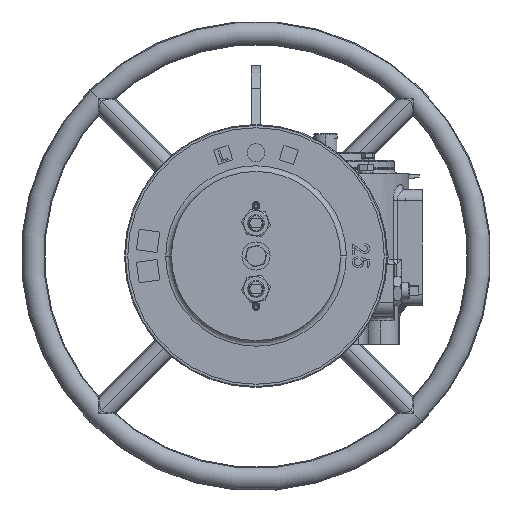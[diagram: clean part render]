
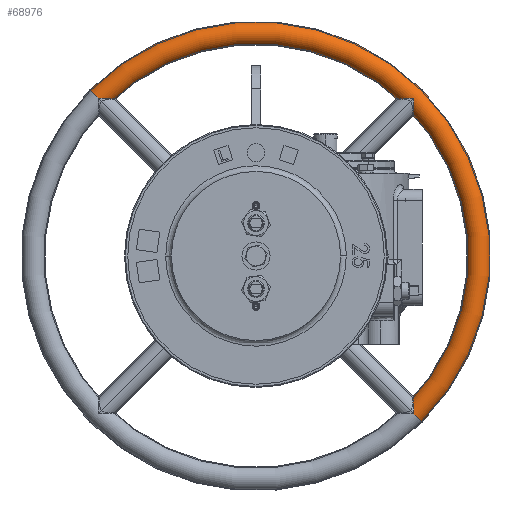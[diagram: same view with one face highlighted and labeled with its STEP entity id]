
A CAD part, left-side view. The second image highlights one B-rep face of the part: STEP entity #68976.
In plain terms, the highlighted toroidal (fillet/blend) face has major radius 237.5 mm and minor radius 12.5 mm.
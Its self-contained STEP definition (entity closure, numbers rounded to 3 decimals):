
#2143 = CARTESIAN_POINT ( 'NONE',  ( 959.677, 203.233, 169.938 ) ) ;
#4791 = CIRCLE ( 'NONE', #69454, 12.5 ) ;
#6302 = AXIS2_PLACEMENT_3D ( 'NONE', #62752, #37574, #63192 ) ;
#8318 = EDGE_LOOP ( 'NONE', ( #60828, #68478, #42470, #36343 ) ) ;
#8537 = EDGE_CURVE ( 'NONE', #71409, #87406, #4791, .T. ) ;
#8825 = FACE_OUTER_BOUND ( 'NONE', #8318, .T. ) ;
#9270 = AXIS2_PLACEMENT_3D ( 'NONE', #29167, #62270, #28280 ) ;
#10459 = CIRCLE ( 'NONE', #6302, 250. ) ;
#11813 = AXIS2_PLACEMENT_3D ( 'NONE', #2143, #55538, #75474 ) ;
#22041 = CARTESIAN_POINT ( 'NONE',  ( 959.677, -141.481, -174.777 ) ) ;
#25557 = DIRECTION ( 'NONE',  ( 0., 0., 1. ) ) ;
#28280 = DIRECTION ( 'NONE',  ( 0., 0.707, 0.707 ) ) ;
#29167 = CARTESIAN_POINT ( 'NONE',  ( 959.677, 35.296, 2. ) ) ;
#30303 = VERTEX_POINT ( 'NONE', #66912 ) ;
#33253 = VERTEX_POINT ( 'NONE', #55645 ) ;
#33456 = EDGE_CURVE ( 'NONE', #33253, #30303, #58324, .T. ) ;
#36343 = ORIENTED_EDGE ( 'NONE', *, *, #83834, .F. ) ;
#37574 = DIRECTION ( 'NONE',  ( -1., 0., 0. ) ) ;
#42470 = ORIENTED_EDGE ( 'NONE', *, *, #33456, .T. ) ;
#45003 = CARTESIAN_POINT ( 'NONE',  ( 959.677, 35.296, 2. ) ) ;
#46245 = CIRCLE ( 'NONE', #78661, 225. ) ;
#55538 = DIRECTION ( 'NONE',  ( 0., -0.707, 0.707 ) ) ;
#55645 = CARTESIAN_POINT ( 'NONE',  ( 959.677, 212.072, 178.777 ) ) ;
#57350 = CARTESIAN_POINT ( 'NONE',  ( 959.677, -123.803, -157.099 ) ) ;
#58324 = CIRCLE ( 'NONE', #11813, 12.5 ) ;
#60828 = ORIENTED_EDGE ( 'NONE', *, *, #8537, .F. ) ;
#62270 = DIRECTION ( 'NONE',  ( -1., 0., 0. ) ) ;
#62752 = CARTESIAN_POINT ( 'NONE',  ( 959.677, 35.296, 2. ) ) ;
#63192 = DIRECTION ( 'NONE',  ( 0., 0., 1. ) ) ;
#66713 = EDGE_CURVE ( 'NONE', #71409, #33253, #10459, .T. ) ;
#66912 = CARTESIAN_POINT ( 'NONE',  ( 959.677, 194.395, 161.099 ) ) ;
#68478 = ORIENTED_EDGE ( 'NONE', *, *, #66713, .T. ) ;
#68976 = ADVANCED_FACE ( 'NONE', ( #8825 ), #85466, .T. ) ;
#69109 = DIRECTION ( 'NONE',  ( 0., 0.707, 0.707 ) ) ;
#69454 = AXIS2_PLACEMENT_3D ( 'NONE', #83219, #76600, #69109 ) ;
#71409 = VERTEX_POINT ( 'NONE', #22041 ) ;
#71959 = DIRECTION ( 'NONE',  ( -1., 0., 0. ) ) ;
#75474 = DIRECTION ( 'NONE',  ( 0., -0.707, -0.707 ) ) ;
#76600 = DIRECTION ( 'NONE',  ( 0., 0.707, -0.707 ) ) ;
#78661 = AXIS2_PLACEMENT_3D ( 'NONE', #45003, #71959, #25557 ) ;
#83219 = CARTESIAN_POINT ( 'NONE',  ( 959.677, -132.642, -165.938 ) ) ;
#83834 = EDGE_CURVE ( 'NONE', #87406, #30303, #46245, .T. ) ;
#85466 = TOROIDAL_SURFACE ( 'NONE', #9270, 237.5, 12.5 ) ;
#87406 = VERTEX_POINT ( 'NONE', #57350 ) ;
